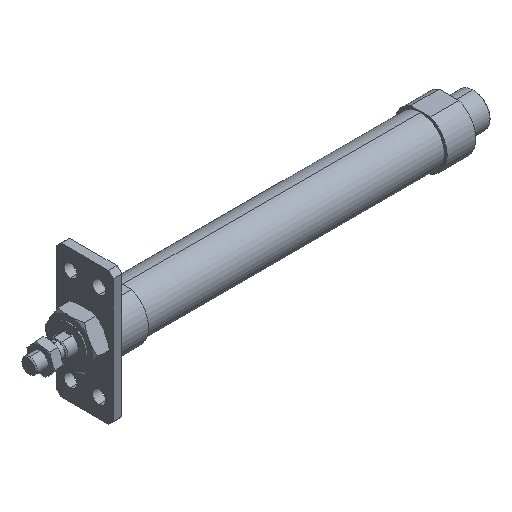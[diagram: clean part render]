
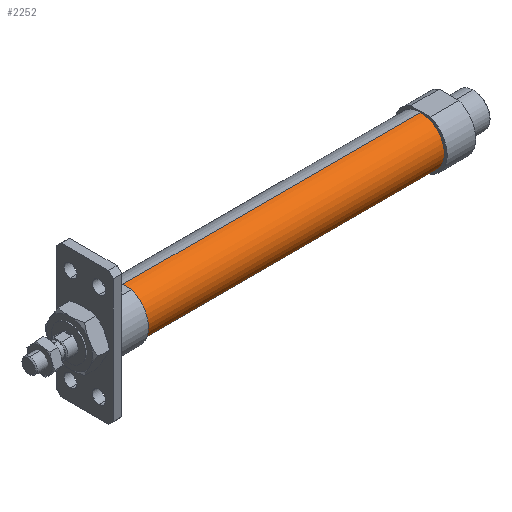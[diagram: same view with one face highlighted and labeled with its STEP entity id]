
A CAD part, isometric view. The second image highlights one B-rep face of the part: STEP entity #2252.
In plain terms, the highlighted cylindrical face has radius 12.5 mm (diameter 25 mm), a partial arc.
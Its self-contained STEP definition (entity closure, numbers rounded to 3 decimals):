
#26 = EDGE_CURVE ( 'NONE', #3635, #2482, #1849, .T. ) ;
#75 = DIRECTION ( 'NONE',  ( 0., 0., 1. ) ) ;
#202 = ORIENTED_EDGE ( 'NONE', *, *, #1280, .T. ) ;
#237 = EDGE_CURVE ( 'NONE', #3473, #3635, #1100, .T. ) ;
#244 = VERTEX_POINT ( 'NONE', #1103 ) ;
#368 = DIRECTION ( 'NONE',  ( -1., 0., 0. ) ) ;
#474 = CARTESIAN_POINT ( 'NONE',  ( 206., 0., -12.5 ) ) ;
#494 = CIRCLE ( 'NONE', #1508, 12.5 ) ;
#559 = CARTESIAN_POINT ( 'NONE',  ( 206., 0., 0. ) ) ;
#603 = EDGE_LOOP ( 'NONE', ( #3718, #747, #202, #950 ) ) ;
#726 = EDGE_CURVE ( 'NONE', #3473, #244, #494, .T. ) ;
#747 = ORIENTED_EDGE ( 'NONE', *, *, #726, .T. ) ;
#950 = ORIENTED_EDGE ( 'NONE', *, *, #26, .F. ) ;
#970 = CARTESIAN_POINT ( 'NONE',  ( 49., 0., 12.5 ) ) ;
#998 = VECTOR ( 'NONE', #3430, 1000. ) ;
#1090 = FACE_OUTER_BOUND ( 'NONE', #603, .T. ) ;
#1099 = DIRECTION ( 'NONE',  ( -1., 0., 0. ) ) ;
#1100 = LINE ( 'NONE', #1807, #2169 ) ;
#1103 = CARTESIAN_POINT ( 'NONE',  ( 206., 0., 12.5 ) ) ;
#1240 = AXIS2_PLACEMENT_3D ( 'NONE', #1536, #1099, #1408 ) ;
#1280 = EDGE_CURVE ( 'NONE', #244, #2482, #1610, .T. ) ;
#1326 = CARTESIAN_POINT ( 'NONE',  ( 49., 0., -12.5 ) ) ;
#1408 = DIRECTION ( 'NONE',  ( 0., 0., 1. ) ) ;
#1508 = AXIS2_PLACEMENT_3D ( 'NONE', #559, #3918, #75 ) ;
#1536 = CARTESIAN_POINT ( 'NONE',  ( 49., 0., 0. ) ) ;
#1610 = LINE ( 'NONE', #2123, #998 ) ;
#1807 = CARTESIAN_POINT ( 'NONE',  ( -6.469, 0., -12.5 ) ) ;
#1849 = CIRCLE ( 'NONE', #1240, 12.5 ) ;
#2073 = AXIS2_PLACEMENT_3D ( 'NONE', #2326, #2647, #3168 ) ;
#2123 = CARTESIAN_POINT ( 'NONE',  ( -6.469, 0., 12.5 ) ) ;
#2169 = VECTOR ( 'NONE', #368, 1000. ) ;
#2252 = ADVANCED_FACE ( 'NONE', ( #1090 ), #2520, .T. ) ;
#2326 = CARTESIAN_POINT ( 'NONE',  ( -6.469, 0., 0. ) ) ;
#2482 = VERTEX_POINT ( 'NONE', #970 ) ;
#2520 = CYLINDRICAL_SURFACE ( 'NONE', #2073, 12.5 ) ;
#2647 = DIRECTION ( 'NONE',  ( -1., 0., 0. ) ) ;
#3168 = DIRECTION ( 'NONE',  ( 0., 0., 1. ) ) ;
#3430 = DIRECTION ( 'NONE',  ( -1., 0., 0. ) ) ;
#3473 = VERTEX_POINT ( 'NONE', #474 ) ;
#3635 = VERTEX_POINT ( 'NONE', #1326 ) ;
#3718 = ORIENTED_EDGE ( 'NONE', *, *, #237, .F. ) ;
#3918 = DIRECTION ( 'NONE',  ( -1., 0., 0. ) ) ;
